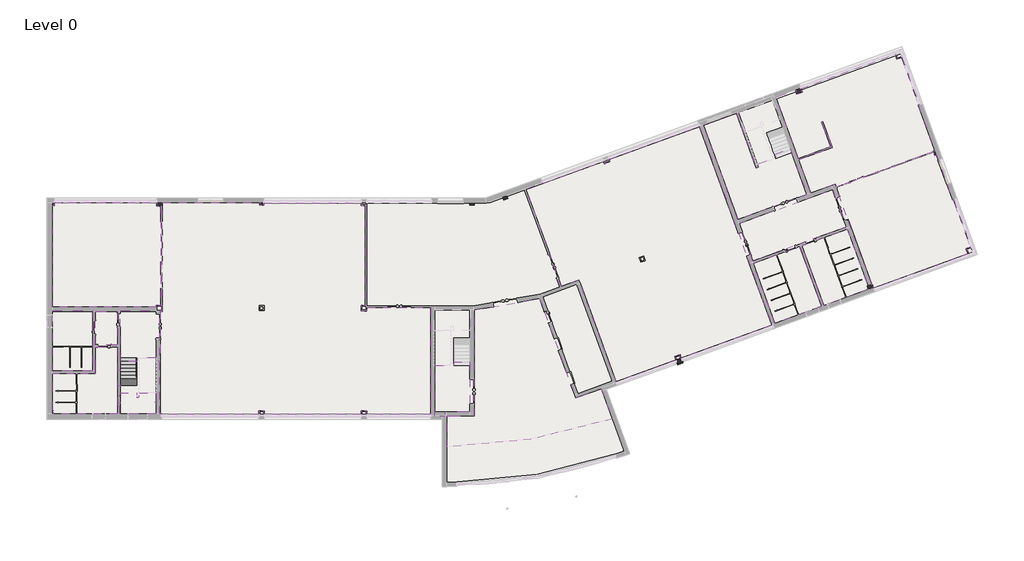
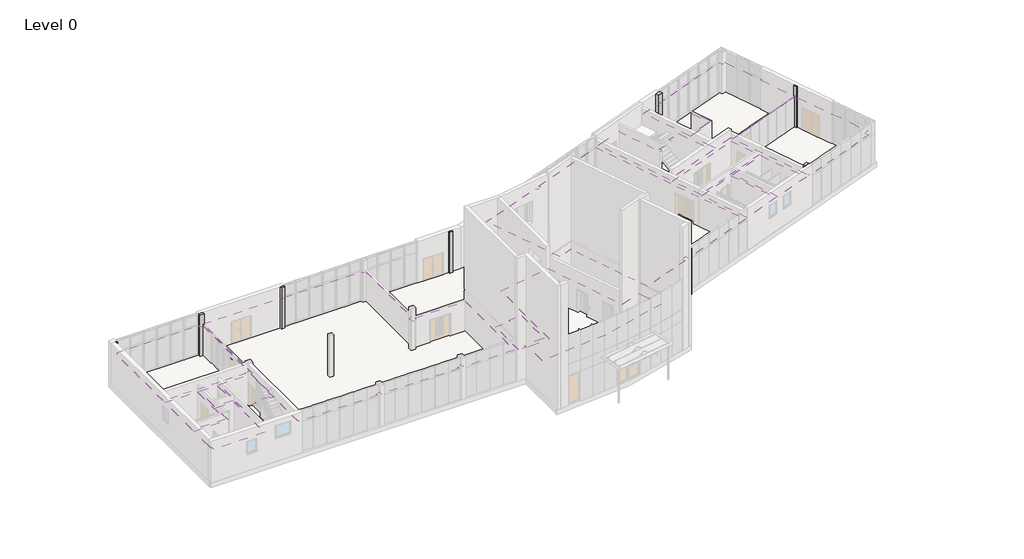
# One storey, part 10 of 14: 15 coverings, 9 columns, 4 proxies, 2 slabs, 1 stair flight.
"""IFC4 building model written with IfcOpenShell, lengths in millimetres."""

from ifc_helpers import new_model, si_unit, point, frame, frame_2d, origin, origin_with_axes, place, context, project, spatial, polyline, circle_curve, trimmed, segment, composite_curve, outline, extrude, faceted_brep, transform, mapped, element, save
from components import support_metal_circular_support_metal_circular_016e83f0

model = new_model("IFC4")

# Units and contexts
model_context = context("Model", 3, world=origin())
ifc_project = project(units=[si_unit("LENGTHUNIT", "METRE", prefix="MILLI")], contexts=[model_context])

# Site, building, storey
site = spatial("IfcSite", under=ifc_project)
building = spatial("IfcBuilding", under=site)
storey = spatial("IfcBuildingStorey", under=building, Name="Level 0", Elevation=0.0)

# Proxies
placement = place(None, origin())
support_metal_circular_support_metal_circular_shape = support_metal_circular_support_metal_circular_016e83f0(model_context)
element("IfcBuildingElementProxy", 1, Name="Support - Metal - Circular : Support - Metal - Circular", ObjectType="Support - Metal - Circular : Support - Metal - Circular", at=placement, inside=storey, context=model_context, shape_type="MappedRepresentation", body=[
    mapped(support_metal_circular_support_metal_circular_shape, transform((5322.6000024, 3439.4755703, 1669.5820057), x_axis=(0.0, 1.0, 0.0), y_axis=(-1.0, 0.0, 0.0), z_axis=(0.0, 0.0, 1.0))),
])
element("IfcBuildingElementProxy", 2, Name="Support - Metal - Circular : Support - Metal - Circular", ObjectType="Support - Metal - Circular : Support - Metal - Circular", at=placement, inside=storey, context=model_context, shape_type="MappedRepresentation", body=[
    mapped(support_metal_circular_support_metal_circular_shape, transform((5322.6000024, 2334.2312733, 2453.300689), x_axis=(0.0, 1.0, 0.0), y_axis=(-1.0, 0.0, 0.0), z_axis=(0.0, 0.0, 1.0))),
])
element("IfcBuildingElementProxy", 3, Name="Support - Metal - Circular : Support - Metal - Circular", ObjectType="Support - Metal - Circular : Support - Metal - Circular", at=placement, inside=storey, context=model_context, shape_type="MappedRepresentation", body=[
    mapped(support_metal_circular_support_metal_circular_shape, transform((5322.6000024, 1100.0, 2832.1192282), x_axis=(0.0, 1.0, 0.0), y_axis=(-1.0, 0.0, 0.0), z_axis=(0.0, 0.0, 1.0))),
])
element("IfcBuildingElementProxy", 4, Name="Support - Metal - Circular : Support - Metal - Circular", ObjectType="Support - Metal - Circular : Support - Metal - Circular", at=placement, inside=storey, context=model_context, shape_type="MappedRepresentation", body=[
    mapped(support_metal_circular_support_metal_circular_shape, transform((7761.8000023, 1150.0, 2832.1192282), x_axis=(0.0, -1.0, 0.0), y_axis=(1.0, 0.0, 0.0), z_axis=(0.0, 0.0, 1.0))),
])

# Columns
element("IfcColumn", 5, ObjectType="Cladding : P1", at=placement, inside=storey, context=model_context, shape_type="SweptSolid", body=[
    extrude(outline(polyline([(0.0, -250.0), (0.0, 0.0), (4350.0, 0.0), (4350.0, -27.5), (3900.0, -27.5), (3900.0, -229.5), (4350.0, -229.5), (4350.0, -250.0), (0.0, -250.0)])), frame((45256.7780197, 4226.9827692, 3900.0), z_axis=(0.9396926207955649, 0.34202014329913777, 0.0), x_axis=(0.0, 0.0, -1.0)), (0.0, 0.0, 1.0), 50.0),
    extrude(outline(polyline([(0.0, -250.0), (0.0, 0.0), (4350.0, 0.0), (4350.0, -27.5), (3900.0, -27.5), (3900.0, -229.4999999), (4350.0, -229.4999999), (4350.0, -250.0), (0.0, -250.0)])), frame((44927.8856024, 4107.275719, 3900.0), z_axis=(0.9396926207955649, 0.34202014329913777, 0.0), x_axis=(0.0, 0.0, -1.0)), (0.0, 0.0, 1.0), 50.0),
    extrude(outline(polyline([(45389.2676866, 4009.1606212), (45406.3686937, 3962.1759901), (45030.4916454, 3825.3679328), (45013.3906382, 3872.3525638), (45389.2676866, 4009.1606212)])), frame((0.0, 0.0, -450.0), z_axis=(0.0, 0.0, 1.0), x_axis=(1.0, 0.0, 0.0)), (0.0, 0.0, 1.0), 4350.0),
    extrude(outline(polyline([(0.0, -250.0), (0.0, 0.0), (4350.0, 0.0), (4350.0, -27.5), (3900.0, -27.5), (3900.0, -229.5), (4350.0, -229.5), (4350.0, -250.0), (0.0, -250.0)])), frame((44974.8702335, 4124.3767262, 3900.0), z_axis=(0.9396926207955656, 0.34202014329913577, 0.0), x_axis=(0.0, 0.0, -1.0)), (0.0, 0.0, 1.0), 300.0),
])
element("IfcColumn", 6, ObjectType="Columns_Rectangular : 300x300mm", at=placement, inside=storey, context=model_context, shape_type="SweptSolid", body=[
    extrude(outline(polyline([(562.2000028, 15173.2000005), (433.0000024, 15173.2000005), (433.0000025, 15351.4000013), (562.2000028, 15351.4000013), (562.2000028, 15173.2000005)])), origin_with_axes(), (0.0, 0.0, 1.0), 3900.0),
])
element("IfcColumn", 7, ObjectType="Columns_Rectangular : 300x300mm", at=placement, inside=storey, context=model_context, shape_type="SweptSolid", body=[
    extrude(outline(polyline([(32891.9713576, 15685.7159924), (32610.0635714, 15583.1099494), (32541.5911387, 15771.236412), (32823.498925, 15873.842455), (32891.9713576, 15685.7159924)])), origin_with_axes(), (0.0, 0.0, 1.0), 3900.0),
])
element("IfcColumn", 8, ObjectType="Columns_Rectangular : 300x300mm", at=placement, inside=storey, context=model_context, shape_type="SweptSolid", body=[
    extrude(outline(polyline([(30512.2000025, 15213.2000005), (30212.2000025, 15213.2000005), (30212.2000025, 15351.4000004), (30512.2000025, 15351.4000004), (30512.2000025, 15213.2000005)])), origin_with_axes(), (0.0, 0.0, 1.0), 3900.0),
])
element("IfcColumn", 9, ObjectType="Columns_Rectangular : 300x300mm", at=placement, inside=storey, context=model_context, shape_type="Brep", body=[
    faceted_brep([(63263.387227, 19077.9273787, 3900.0), (63365.99327, 18796.0195924, 3900.0), (63459.9625309, 18830.2216063, 3900.0), (63357.356488, 19112.1293926, 3900.0), (63459.9625309, 18830.2216063, 0.0), (63365.99327, 18796.0195924, 0.0), (63279.6331838, 19033.2919792, 0.0), (63271.0826803, 19056.7842947, 0.0), (63263.387227, 19077.9273787, 0.0), (63357.356488, 19112.1293926, 0.0)], [[[0, 1, 2, 3]], [[4, 5, 6, 7, 8, 9]], [[8, 0, 3, 9]], [[1, 0, 8, 7, 6, 5]], [[1, 5, 4, 2]], [[3, 2, 4, 9]]]),
])
element("IfcColumn", 10, ObjectType="Columns_Rectangular : 300x300mm", at=placement, inside=storey, context=model_context, shape_type="SweptSolid", body=[
    extrude(outline(polyline([(15512.2000024, 15213.2000005), (15212.2000024, 15213.2000005), (15212.2000024, 15413.4000007), (15512.2000024, 15413.4000007), (15512.2000024, 15213.2000005)])), origin_with_axes(), (0.0, 0.0, 1.0), 3900.0),
])
element("IfcColumn", 11, ObjectType="Columns_Rectangular : 400x400mm", at=placement, inside=storey, context=model_context, shape_type="Brep", body=[
    faceted_brep([(7887.2000028, 15163.2000005, 3900.0), (8287.2000028, 15163.2000005, 3900.0), (8287.2000028, 15413.4000008, 3900.0), (7887.2000028, 15413.4000008, 3900.0), (7887.2000028, 15413.4000008, 0.0), (8287.2000028, 15413.4000008, 0.0), (8287.2000028, 15188.4000008, 0.0), (8167.2000028, 15188.4000008, 0.0), (8167.2000028, 15163.2000005, 0.0), (7887.2000028, 15163.2000005, 0.0), (8167.2000028, 15163.2000005, 2900.0), (8287.2000028, 15163.2000005, 2900.0), (8287.2000028, 15188.4000008, 2900.0), (8167.2000028, 15188.4000008, 2900.0)], [[[0, 1, 2, 3]], [[4, 5, 6, 7, 8, 9]], [[9, 0, 3, 4]], [[1, 0, 9, 8, 10, 11]], [[2, 1, 11, 12, 6, 5]], [[3, 2, 5, 4]], [[7, 13, 10, 8]], [[13, 7, 6, 12]], [[13, 12, 11, 10]]]),
])
element("IfcColumn", 12, ObjectType="Columns_Rectangular : 400x400mm", at=placement, inside=storey, context=model_context, shape_type="SweptSolid", body=[
    extrude(outline(polyline([(53911.2024396, 23282.8815641), (53535.3253912, 23146.0735068), (53428.5467025, 23439.4455429), (53804.4237508, 23576.2536002), (53911.2024396, 23282.8815641)])), origin_with_axes(), (0.0, 0.0, 1.0), 3900.0),
])
element("IfcColumn", 13, ObjectType="Columns_Rectangular : 400x400mm", at=placement, inside=storey, context=model_context, shape_type="Brep", body=[
    faceted_brep([(58904.6965317, 9563.3693005, 3900.0), (58528.8194834, 9426.5612432, 3900.0), (58614.3929232, 9191.4501495, 3900.0), (58990.2699716, 9328.2582068, 3900.0), (58614.3929232, 9191.4501495, 0.0), (58528.8194834, 9426.5612432, 0.0), (58622.7887454, 9460.7632574, 0.0), (58857.7119006, 9546.2682933, 0.0), (58904.6965317, 9563.3693005, 0.0), (58990.2699716, 9328.2582068, 0.0)], [[[0, 1, 2, 3]], [[4, 5, 6, 7, 8, 9]], [[1, 0, 8, 7, 6, 5]], [[1, 5, 4, 2]], [[8, 0, 3, 9]], [[3, 2, 4, 9]]]),
])

# Coverings
element("IfcCovering", 14, ObjectType="600x600mm_Grid", at=placement, inside=storey, context=model_context, shape_type="SweptSolid", body=[
    extrude(outline(polyline([(22882.3447354, 7663.2000003), (22882.3447354, 7893.2000004), (27412.2000031, 7893.2000005), (27412.2000029, 269.9999995), (22862.3447354, 269.9999995), (22862.3447354, 538.199999), (22462.2000028, 538.199999), (22462.2000028, 269.9999995), (15562.3447355, 269.9999995), (15562.3447355, 538.199999), (15162.2000029, 538.199999), (15162.2000029, 269.9999995), (8187.2000027, 269.9999995), (8187.2000027, 313.0000001), (8087.2000022, 313.0000001), (8087.2000024, 7638.2000005), (8287.2000028, 7638.2000005), (8287.2000028, 15413.4000008), (15212.2000024, 15413.4000007), (15212.2000024, 15213.2000005), (15512.2000024, 15213.2000005), (15512.2000024, 15363.2000005), (22462.2000028, 15363.2000005), (22462.2000028, 15188.2000019), (22742.3447354, 15188.2000019), (22742.3447354, 8063.2000003), (22462.2000024, 8063.2000003), (22462.2000024, 7663.2000003), (22882.3447354, 7663.2000003)]), holes=[polyline([(15537.2000025, 7688.2000003), (15537.2000025, 8038.2000003), (15187.2000024, 8038.2000003), (15187.2000024, 7688.2000003), (15537.2000025, 7688.2000003)])]), frame((0.0, 0.0, 2800.0), z_axis=(0.0, 0.0, 1.0), x_axis=(1.0, 0.0, 0.0)), (0.0, 0.0, 1.0), 52.0),
])
element("IfcCovering", 15, ObjectType="600x600mm_Grid", at=placement, inside=storey, context=model_context, shape_type="SweptSolid", body=[
    extrude(outline(polyline([(37985.6557273, 9877.5855238), (36735.8645417, 9422.6987332), (34204.8470773, 16376.6120655), (35384.1613169, 16805.8473456), (35396.8160621, 16771.0787187), (39742.8264311, 18352.8971307), (39807.1946218, 18176.0469802), (40183.0716701, 18312.8550375), (40118.7034794, 18489.705188), (46579.1582494, 20841.1184239), (51752.691745, 6626.9519648), (45292.236975, 4275.5387287), (45193.66677, 4546.3581414), (44817.7897216, 4409.5500841), (44916.3599267, 4138.7306713), (40640.8265039, 2582.5637698), (37985.6557273, 9877.5855238)]), holes=[polyline([(42724.7984316, 11256.6346278), (42605.0913814, 11585.5270451), (42276.1989642, 11465.8199949), (42395.9060144, 11136.9275777), (42724.7984316, 11256.6346278)])]), frame((0.0, 0.0, 2800.0), z_axis=(0.0, 0.0, 1.0), x_axis=(1.0, 0.0, 0.0)), (0.0, 0.0, 1.0), 52.0),
])
element("IfcCovering", 16, ObjectType="600x600mm_Grid", at=placement, inside=storey, context=model_context, shape_type="SweptSolid", body=[
    extrude(outline(polyline([(28408.3766929, 146.0000008), (27712.2000028, 146.0000009), (27712.200003, 3763.2000006), (29052.2000029, 3763.2000006), (29052.2000029, 4013.2000006), (30212.2000024, 4013.2000006), (30212.2000023, 470.0000006), (28408.3766929, 470.0000006), (28408.3766929, 146.0000008)])), frame((0.0, 0.0, 2800.0), z_axis=(0.0, 0.0, 1.0), x_axis=(1.0, 0.0, 0.0)), (0.0, 0.0, 1.0), 52.0),
])
element("IfcCovering", 17, ObjectType="600x600mm_Grid", at=placement, inside=storey, context=model_context, shape_type="SweptSolid", body=[
    extrude(outline(polyline([(50622.8530138, 17860.8385478), (50776.9710581, 17916.9066227), (50697.0762506, 18136.4158024), (52050.0788572, 18628.8684779), (51964.5738214, 18863.791633), (53045.2203355, 19257.1147979), (54237.3999491, 15981.6282294), (49318.7201794, 14191.3752015), (46856.9617939, 20955.0007783), (49187.8828531, 21803.3866622), (50622.8530138, 17860.8385478)])), frame((0.0, 0.0, 2800.0), z_axis=(0.0, 0.0, 1.0), x_axis=(1.0, 0.0, 0.0)), (0.0, 0.0, 1.0), 52.0),
])
element("IfcCovering", 18, ObjectType="600x600mm_Grid", at=placement, inside=storey, context=model_context, shape_type="SweptSolid", body=[
    extrude(outline(polyline([(50396.1862368, 11231.0615383), (49421.3262224, 13909.4674153), (56069.6515144, 16329.2599291), (57044.5115288, 13650.8540521), (50396.1862368, 11231.0615383)])), frame((0.0, 0.0, 2800.0), z_axis=(0.0, 0.0, 1.0), x_axis=(1.0, 0.0, 0.0)), (0.0, 0.0, 1.0), 52.0),
])
element("IfcCovering", 19, ObjectType="600x600mm_Grid", at=placement, inside=storey, context=model_context, shape_type="SweptSolid", body=[
    extrude(outline(polyline([(59011.8172406, 9269.0575717), (58904.6965317, 9563.3693005), (58857.7119006, 9546.2682933), (56325.9077899, 16502.3429187), (63256.1408745, 19024.7414778), (63351.0514643, 18763.9767754), (63468.5130346, 18806.7292907), (64639.3163891, 15589.9735111), (64698.5170243, 15611.5207802), (65929.7895403, 12228.6273452), (65588.6811194, 12104.4740334), (65730.6194788, 11714.5015961), (59011.8172406, 9269.0575717)])), frame((0.0, 0.0, 2800.0), z_axis=(0.0, 0.0, 1.0), x_axis=(1.0, 0.0, 0.0)), (0.0, 0.0, 1.0), 52.0),
])
element("IfcCovering", 20, ObjectType="600x600mm_Grid", at=placement, inside=storey, context=model_context, shape_type="SweptSolid", body=[
    extrude(outline(polyline([(52027.7935973, 22929.6131071), (53428.5467025, 23439.4455429), (53535.3253912, 23146.0735068), (53911.2024395, 23282.8815641), (53817.0784962, 23541.4849732), (60535.8807344, 25986.9289976), (60664.8223283, 25632.6648797), (61005.9307492, 25756.8181916), (62237.203265, 22373.9247568), (62178.0026297, 22352.3774878), (63373.6024448, 19067.4939931), (56325.9077899, 16502.3429187), (56248.9532577, 16713.7737583), (54519.3077353, 16084.2342724), (53655.7108186, 18456.9473006), (56049.57777, 19328.2436156), (55378.2834324, 21172.6096503), (55289.0126334, 21140.1177367), (55927.8150575, 19385.0225009), (53623.218905, 18546.2180995), (52027.7935973, 22929.6131071)])), frame((0.0, 0.0, 2800.0), z_axis=(0.0, 0.0, 1.0), x_axis=(1.0, 0.0, 0.0)), (0.0, 0.0, 1.0), 52.0),
])
element("IfcCovering", 21, ObjectType="600x600mm_Grid", at=placement, inside=storey, context=model_context, shape_type="SweptSolid", body=[
    extrude(outline(polyline([(5259.2000024, 4050.0), (5259.2000024, 7688.2000005), (8137.2000024, 7688.2000005), (8137.2000024, 4050.0), (7841.8000023, 4050.0), (7841.8000023, 4300.0), (6497.2000024, 4300.0), (6497.2000024, 4050.0), (5259.2000024, 4050.0)])), frame((0.0, 0.0, 2800.0), z_axis=(0.0, 0.0, 1.0), x_axis=(1.0, 0.0, 0.0)), (0.0, 0.0, 1.0), 52.0),
])
element("IfcCovering", 22, ObjectType="600x600mm_Grid", at=placement, inside=storey, context=model_context, shape_type="SweptSolid", body=[
    extrude(outline(composite_curve([segment(polyline([(35172.4630866, 8542.9751377), (37756.3380613, 1443.836992), (39586.2234059, 2109.8607895), (40371.8140424, -48.5317453)]), True, "CONTINUOUS"), segment(trimmed(circle_curve(frame_2d((28027.924496, 36998.4991929)), 39049.3804108), [point((40371.8140424, -48.5317453))], [point((28564.8766926, -2047.1893375))], False, "CARTESIAN"), True, "CONTINUOUS"), segment(polyline([(28564.8766926, -2047.1893375), (28564.8766928, 170.0000006), (30512.2000023, 170.0000006), (30512.2000024, 7721.2450188), (35172.4630866, 8542.9751377)]), True, "CONTINUOUS")], self_intersect=False)), frame((0.0, 0.0, 2800.0), z_axis=(0.0, 0.0, 1.0), x_axis=(1.0, 0.0, 0.0)), (0.0, 0.0, 1.0), 52.0),
])
element("IfcCovering", 23, ObjectType="600x600mm_Grid", at=placement, inside=storey, context=model_context, shape_type="SweptSolid", body=[
    extrude(outline(polyline([(7887.2000028, 15388.9000009), (7887.2000028, 15163.2000005), (8167.2000028, 15163.2000005), (8167.2000028, 8063.2000005), (7837.2000024, 8063.2000005), (7837.2000024, 7938.2000004), (433.0000013, 7938.2000004), (433.0000024, 15173.2000005), (562.2000028, 15173.2000005), (562.2000028, 15388.9000009), (7887.2000028, 15388.9000009)])), frame((0.0, 0.0, 2800.0), z_axis=(0.0, 0.0, 1.0), x_axis=(1.0, 0.0, 0.0)), (0.0, 0.0, 1.0), 52.0),
])
element("IfcCovering", 24, ObjectType="Plain", at=placement, inside=storey, context=model_context, shape_type="SweptSolid", body=[
    extrude(outline(polyline([(55295.3985864, 7983.4350033), (51966.0676312, 6771.6576357), (50405.2929092, 11059.8509413), (53734.6238645, 12271.628309), (55295.3985864, 7983.4350033)])), frame((0.0, 0.0, 2800.0), z_axis=(0.0, 0.0, 1.0), x_axis=(1.0, 0.0, 0.0)), (0.0, 0.0, 1.0), 57.0),
])
element("IfcCovering", 25, ObjectType="Plain", at=placement, inside=storey, context=model_context, shape_type="SweptSolid", body=[
    extrude(outline(polyline([(58661.3775542, 9208.5511566), (55449.5081762, 8039.5263068), (53888.7334543, 12327.7196125), (57100.6028323, 13496.7444623), (58661.3775542, 9208.5511566)])), frame((0.0, 0.0, 2800.0), z_axis=(0.0, 0.0, 1.0), x_axis=(1.0, 0.0, 0.0)), (0.0, 0.0, 1.0), 57.0),
])
element("IfcCovering", 26, ObjectType="Plain", at=placement, inside=storey, context=model_context, shape_type="SweptSolid", body=[
    extrude(outline(polyline([(433.0000012, 7688.2000003), (3332.5000006, 7688.2000004), (3332.5000007, 3376.5000005), (433.0000005, 3376.5000006), (433.0000012, 7688.2000003)])), frame((0.0, 0.0, 2800.0), z_axis=(0.0, 0.0, 1.0), x_axis=(1.0, 0.0, 0.0)), (0.0, 0.0, 1.0), 57.0),
])
element("IfcCovering", 27, ObjectType="Plain", at=placement, inside=storey, context=model_context, shape_type="SweptSolid", body=[
    extrude(outline(polyline([(433.0000005, 3212.5000006), (3496.5000007, 3212.5000005), (3496.5000006, 5086.0000005), (5095.2000026, 5086.0000001), (5095.2000024, 313.0000006), (537.2000026, 313.0000005), (537.2000026, 538.2000011), (433.0000001, 538.2000011), (433.0000005, 3212.5000006)])), frame((0.0, 0.0, 2800.0), z_axis=(0.0, 0.0, 1.0), x_axis=(1.0, 0.0, 0.0)), (0.0, 0.0, 1.0), 57.0),
])
element("IfcCovering", 28, ObjectType="Plain", at=placement, inside=storey, context=model_context, shape_type="SweptSolid", body=[
    extrude(outline(polyline([(5095.2000024, 5250.0000001), (3496.5000006, 5250.0000005), (3496.5000006, 7638.2000004), (5095.2000024, 7638.2000004), (5095.2000024, 5250.0000001)])), frame((0.0, 0.0, 2800.0), z_axis=(0.0, 0.0, 1.0), x_axis=(1.0, 0.0, 0.0)), (0.0, 0.0, 1.0), 57.0),
])

# Slabs
element("IfcSlab", 29, ObjectType="200mm_Thickness", at=placement, inside=storey, context=model_context, shape_type="SolidModel", body=[
    faceted_brep([(6447.2000024, 1800.0, 1949.0), (5247.2000024, 1800.0, 1949.0), (5247.2000024, 1572.7280846, 1949.0), (5247.2000024, 300.0000001, 1949.0), (7837.2000023, 300.0000001, 1949.0), (7837.2000023, 1777.2719153, 1949.0), (7837.2000023, 1800.0, 1949.0), (6637.2000025, 1800.0, 1949.0), (6637.2000025, 1777.2719153, 1949.0), (6637.2000025, 1500.0, 1949.0), (6447.2000024, 1500.0, 1949.0), (6447.2000024, 1572.7280846, 1949.0), (6447.2000024, 1800.0, 1587.8435509), (6447.2000024, 1800.0, 1771.7272727), (6447.2000024, 1500.0, 1749.0), (6447.2000024, 1572.7280846, 1749.0), (5247.2000024, 1800.0, 1771.7272727), (5247.2000024, 1800.0, 1587.8435509), (5247.2000024, 1572.7280846, 1749.0), (5247.2000024, 300.0000001, 1749.0), (6637.2000025, 1800.0, 1765.1162782), (6637.2000025, 1777.2719153, 1749.0), (6637.2000025, 1500.0, 1749.0), (7837.2000023, 1777.2719153, 1749.0), (7837.2000023, 300.0000001, 1749.0), (7837.2000023, 1800.0, 1765.1162782)], [[[0, 1, 2, 3, 4, 5, 6, 7, 8, 9, 10, 11]], [[12, 13, 0, 11, 10, 14, 15]], [[1, 16, 17, 18, 19, 3, 2]], [[7, 20, 21, 22, 9, 8]], [[18, 15, 14, 22, 21, 23, 24, 19]], [[15, 18, 17, 12]], [[23, 21, 20, 25]], [[1, 0, 13, 12, 17, 16]], [[4, 3, 19, 24]], [[4, 24, 23, 25, 6, 5]], [[7, 6, 25, 20]], [[10, 9, 22, 14]]]),
    extrude(outline(polyline([(6447.2000024, 1800.0), (6447.2000024, 1500.0), (6637.2000025, 1500.0), (6637.2000025, 1800.0), (7837.2000023, 1800.0), (7837.2000023, 300.0000001), (5247.2000024, 300.0000001), (5247.2000024, 1800.0), (6447.2000024, 1800.0)])), frame((0.0, 0.0, 1949.0), z_axis=(0.0, 0.0, 1.0), x_axis=(1.0, 0.0, 0.0)), (0.0, 0.0, 1.0), 1.0),
])
element("IfcSlab", 30, ObjectType="Generic 150mm", at=placement, inside=storey, context=model_context, shape_type="SweptSolid", body=[
    extrude(outline(composite_curve([segment(trimmed(circle_curve(frame_2d((28251.8766926, 34165.8732259)), 38761.3804108), [point((41238.0521583, -2355.4062989))], [point((28539.8766925, -4594.4372393))], False, "CARTESIAN"), True, "CONTINUOUS"), segment(polyline([(28539.8766925, -4594.4372393), (28539.8766928, 300.0000005), (407.9999989, 313.0000007), (408.0000013, 15363.2000005), (31601.9396293, 15363.2000005), (60886.1238516, 25974.8803698), (66023.0228145, 11861.366462), (39568.1602739, 2232.5839466), (41238.0521583, -2355.4062989)]), True, "CONTINUOUS")], self_intersect=False)), frame((0.0, 0.0, -140.0), z_axis=(0.0, 0.0, 1.0), x_axis=(1.0, 0.0, 0.0)), (0.0, 0.0, 1.0), 140.0),
])

# Stair flight
element("IfcStairFlight", 31, ObjectType="1mm_Tread-150mm_Depth", at=placement, inside=storey, context=model_context, shape_type="SolidModel", body=[
    faceted_brep([(6447.2000024, 4050.0, 176.2727273), (6447.2000024, 4300.0, 176.2727273), (5247.2000024, 4300.0, 176.2727273), (5247.2000024, 4050.0, 176.2727273), (6447.2000024, 4050.0, 0.0), (6447.2000024, 4300.0, 0.0), (5247.2000024, 4300.0, 0.0), (5247.2000024, 4050.0, 0.0), (6447.2000024, 3800.0, 353.5454545), (6447.2000024, 4050.0, 353.5454545), (5247.2000024, 4050.0, 353.5454545), (5247.2000024, 3800.0, 353.5454545), (6447.2000024, 3800.0, 169.6617328), (6447.2000024, 4039.2665462, 0.0), (5247.2000024, 4039.2665462, 0.0), (5247.2000024, 3800.0, 169.6617328), (6447.2000024, 3550.0, 530.8181818), (6447.2000024, 3800.0, 530.8181818), (5247.2000024, 3800.0, 530.8181818), (5247.2000024, 3550.0, 530.8181818), (6447.2000024, 3550.0, 346.93446), (5247.2000024, 3550.0, 346.93446), (6447.2000024, 3300.0, 708.0909091), (6447.2000024, 3550.0, 708.0909091), (5247.2000024, 3550.0, 708.0909091), (5247.2000024, 3300.0, 708.0909091), (6447.2000024, 3300.0, 524.2071873), (5247.2000024, 3300.0, 524.2071873), (6447.2000024, 3050.0, 885.3636364), (6447.2000024, 3300.0, 885.3636364), (5247.2000024, 3300.0, 885.3636364), (5247.2000024, 3050.0, 885.3636364), (6447.2000024, 3050.0, 701.4799146), (5247.2000024, 3050.0, 701.4799146), (6447.2000024, 2800.0, 1062.6363636), (6447.2000024, 3050.0, 1062.6363636), (5247.2000024, 3050.0, 1062.6363636), (5247.2000024, 2800.0, 1062.6363636), (6447.2000024, 2800.0, 878.7526418), (5247.2000024, 2800.0, 878.7526418), (6447.2000024, 2550.0, 1239.9090909), (6447.2000024, 2800.0, 1239.9090909), (5247.2000024, 2800.0, 1239.9090909), (5247.2000024, 2550.0, 1239.9090909), (6447.2000024, 2550.0, 1056.0253691), (5247.2000024, 2550.0, 1056.0253691), (6447.2000024, 2300.0, 1417.1818182), (6447.2000024, 2550.0, 1417.1818182), (5247.2000024, 2550.0, 1417.1818182), (5247.2000024, 2300.0, 1417.1818182), (6447.2000024, 2300.0, 1233.2980964), (5247.2000024, 2300.0, 1233.2980964), (6447.2000024, 2050.0, 1594.4545455), (6447.2000024, 2300.0, 1594.4545455), (5247.2000024, 2300.0, 1594.4545455), (5247.2000024, 2050.0, 1594.4545455), (6447.2000024, 2050.0, 1410.5708237), (5247.2000024, 2050.0, 1410.5708237), (6447.2000024, 1800.0, 1587.8435509), (5247.2000024, 1800.0, 1587.8435509), (6447.2000024, 1800.0, 1771.7272727), (6447.2000024, 2050.0, 1771.7272727), (5247.2000024, 2050.0, 1771.7272727), (5247.2000024, 1800.0, 1771.7272727)], [[[0, 1, 2, 3]], [[1, 0, 4, 5]], [[2, 1, 5, 6]], [[3, 2, 6, 7]], [[8, 9, 10, 11]], [[4, 0, 9, 8, 12, 13]], [[0, 3, 10, 9]], [[3, 7, 14, 15, 11, 10]], [[16, 17, 18, 19]], [[17, 16, 20, 12, 8]], [[8, 11, 18, 17]], [[19, 18, 11, 15, 21]], [[22, 23, 24, 25]], [[23, 22, 26, 20, 16]], [[16, 19, 24, 23]], [[25, 24, 19, 21, 27]], [[28, 29, 30, 31]], [[29, 28, 32, 26, 22]], [[22, 25, 30, 29]], [[31, 30, 25, 27, 33]], [[34, 35, 36, 37]], [[35, 34, 38, 32, 28]], [[28, 31, 36, 35]], [[37, 36, 31, 33, 39]], [[40, 41, 42, 43]], [[41, 40, 44, 38, 34]], [[34, 37, 42, 41]], [[43, 42, 37, 39, 45]], [[46, 47, 48, 49]], [[47, 46, 50, 44, 40]], [[40, 43, 48, 47]], [[49, 48, 43, 45, 51]], [[52, 53, 54, 55]], [[53, 52, 56, 50, 46]], [[46, 49, 54, 53]], [[55, 54, 49, 51, 57]], [[5, 4, 13, 14, 7, 6]], [[14, 13, 12, 20, 26, 32, 38, 44, 50, 56, 58, 59, 57, 51, 45, 39, 33, 27, 21, 15]], [[60, 61, 62, 63]], [[61, 60, 58, 56, 52]], [[52, 55, 62, 61]], [[63, 62, 55, 57, 59]], [[60, 63, 59, 58]]]),
    extrude(outline(polyline([(6447.2000024, 4050.0), (5247.2000024, 4050.0), (5247.2000024, 4300.0), (6447.2000024, 4300.0), (6447.2000024, 4050.0)])), frame((0.0, 0.0, 176.2727273), z_axis=(0.0, 0.0, 1.0), x_axis=(1.0, 0.0, 0.0)), (0.0, 0.0, 1.0), 1.0),
    extrude(outline(polyline([(6447.2000024, 3800.0), (5247.2000024, 3800.0), (5247.2000024, 4050.0), (6447.2000024, 4050.0), (6447.2000024, 3800.0)])), frame((0.0, 0.0, 353.5454545), z_axis=(0.0, 0.0, 1.0), x_axis=(1.0, 0.0, 0.0)), (0.0, 0.0, 1.0), 1.0),
    extrude(outline(polyline([(6447.2000024, 3550.0), (5247.2000024, 3550.0), (5247.2000024, 3800.0), (6447.2000024, 3800.0), (6447.2000024, 3550.0)])), frame((0.0, 0.0, 530.8181818), z_axis=(0.0, 0.0, 1.0), x_axis=(1.0, 0.0, 0.0)), (0.0, 0.0, 1.0), 1.0),
    extrude(outline(polyline([(6447.2000024, 3300.0), (5247.2000024, 3300.0), (5247.2000024, 3550.0), (6447.2000024, 3550.0), (6447.2000024, 3300.0)])), frame((0.0, 0.0, 708.0909091), z_axis=(0.0, 0.0, 1.0), x_axis=(1.0, 0.0, 0.0)), (0.0, 0.0, 1.0), 1.0),
    extrude(outline(polyline([(6447.2000024, 3050.0), (5247.2000024, 3050.0), (5247.2000024, 3300.0), (6447.2000024, 3300.0), (6447.2000024, 3050.0)])), frame((0.0, 0.0, 885.3636364), z_axis=(0.0, 0.0, 1.0), x_axis=(1.0, 0.0, 0.0)), (0.0, 0.0, 1.0), 1.0),
    extrude(outline(polyline([(6447.2000024, 2800.0), (5247.2000024, 2800.0), (5247.2000024, 3050.0), (6447.2000024, 3050.0), (6447.2000024, 2800.0)])), frame((0.0, 0.0, 1062.6363636), z_axis=(0.0, 0.0, 1.0), x_axis=(1.0, 0.0, 0.0)), (0.0, 0.0, 1.0), 1.0),
    extrude(outline(polyline([(6447.2000024, 2550.0), (5247.2000024, 2550.0), (5247.2000024, 2800.0), (6447.2000024, 2800.0), (6447.2000024, 2550.0)])), frame((0.0, 0.0, 1239.9090909), z_axis=(0.0, 0.0, 1.0), x_axis=(1.0, 0.0, 0.0)), (0.0, 0.0, 1.0), 1.0),
    extrude(outline(polyline([(6447.2000024, 2300.0), (5247.2000024, 2300.0), (5247.2000024, 2550.0), (6447.2000024, 2550.0), (6447.2000024, 2300.0)])), frame((0.0, 0.0, 1417.1818182), z_axis=(0.0, 0.0, 1.0), x_axis=(1.0, 0.0, 0.0)), (0.0, 0.0, 1.0), 1.0),
    extrude(outline(polyline([(6447.2000024, 2050.0), (5247.2000024, 2050.0), (5247.2000024, 2300.0), (6447.2000024, 2300.0), (6447.2000024, 2050.0)])), frame((0.0, 0.0, 1594.4545455), z_axis=(0.0, 0.0, 1.0), x_axis=(1.0, 0.0, 0.0)), (0.0, 0.0, 1.0), 1.0),
    extrude(outline(polyline([(6447.2000024, 1800.0), (5247.2000024, 1800.0), (5247.2000024, 2050.0), (6447.2000024, 2050.0), (6447.2000024, 1800.0)])), frame((0.0, 0.0, 1771.7272727), z_axis=(0.0, 0.0, 1.0), x_axis=(1.0, 0.0, 0.0)), (0.0, 0.0, 1.0), 1.0),
])

save(model, "model.ifc")
